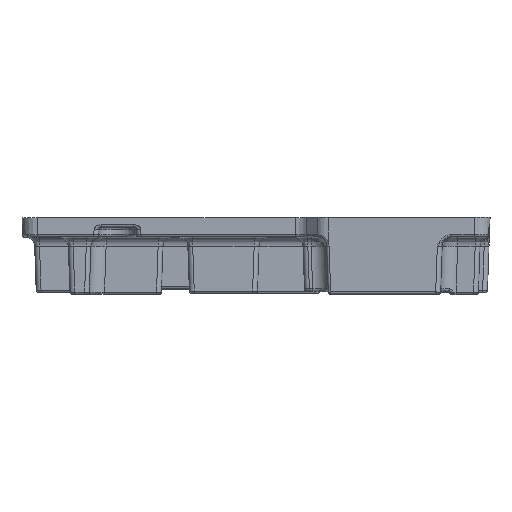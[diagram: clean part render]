
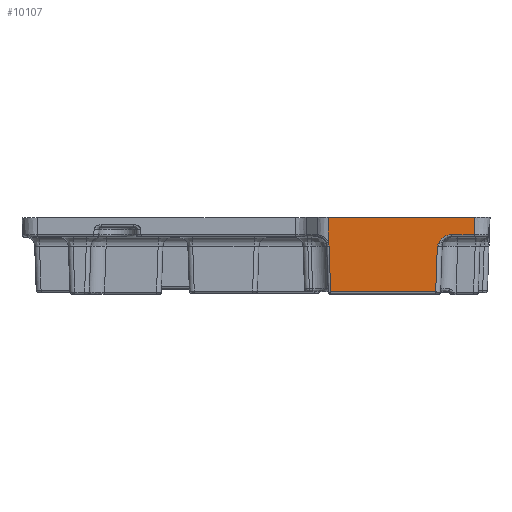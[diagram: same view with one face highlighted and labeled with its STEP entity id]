
A CAD part, top view. The second image highlights one B-rep face of the part: STEP entity #10107.
In plain terms, the highlighted planar face has unit normal (0, -0.035, 0.999).
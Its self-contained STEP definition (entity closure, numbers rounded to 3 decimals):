
#96=DIRECTION('',(1.,0.,0.));
#97=VECTOR('',#96,30.147);
#98=CARTESIAN_POINT('',(-30.146,4.,79.095));
#99=LINE('',#98,#97);
#1874=CARTESIAN_POINT('',(-4.731,0.483,
78.972));
#1875=CARTESIAN_POINT('',(-4.923,0.483,
78.972));
#1876=CARTESIAN_POINT('',(-5.282,0.44,
78.97));
#1877=CARTESIAN_POINT('',(-5.741,0.295,
78.965));
#1878=CARTESIAN_POINT('',(-6.125,0.098,
78.958));
#1879=CARTESIAN_POINT('',(-6.44,-0.125,
78.95));
#1880=CARTESIAN_POINT('',(-6.697,-0.359,
78.942));
#1881=CARTESIAN_POINT('',(-6.905,-0.591,
78.934));
#1882=CARTESIAN_POINT('',(-7.076,-0.817,
78.926));
#1883=CARTESIAN_POINT('',(-7.217,-1.032,
78.919));
#1884=CARTESIAN_POINT('',(-7.333,-1.232,
78.912));
#1885=CARTESIAN_POINT('',(-7.431,-1.418,
78.905));
#1886=CARTESIAN_POINT('',(-7.513,-1.585,
78.899));
#1887=CARTESIAN_POINT('',(-7.589,-1.747,
78.894));
#1888=CARTESIAN_POINT('',(-7.644,-1.868,
78.89));
#1889=CARTESIAN_POINT('',(-7.671,-1.93,
78.887));
#1891=DIRECTION('',(0.035,0.999,0.035));
#1892=VECTOR('',#1891,9.449);
#1893=CARTESIAN_POINT('',(-8.001,-11.367,
78.558));
#1894=LINE('',#1893,#1892);
#1895=DIRECTION('',(-1.,0.,0.));
#1896=VECTOR('',#1895,21.662);
#1897=CARTESIAN_POINT('',(-8.001,-11.367,
78.558));
#1898=LINE('',#1897,#1896);
#1899=DIRECTION('',(-0.035,0.999,0.035));
#1900=VECTOR('',#1899,9.449);
#1901=CARTESIAN_POINT('',(-29.663,-11.367,
78.558));
#1902=LINE('',#1901,#1900);
#1903=CARTESIAN_POINT('',(-29.993,-1.93,
78.887));
#1904=CARTESIAN_POINT('',(-29.996,-1.844,
78.89));
#1905=CARTESIAN_POINT('',(-30.011,-1.671,
78.896));
#1906=CARTESIAN_POINT('',(-30.058,-1.425,
78.905));
#1907=CARTESIAN_POINT('',(-30.112,-1.243,
78.911));
#1908=CARTESIAN_POINT('',(-30.146,-1.15,
78.915));
#1910=DIRECTION('',(0.,-0.999,-0.035));
#1911=VECTOR('',#1910,5.153);
#1912=CARTESIAN_POINT('',(-30.146,4.,79.095));
#1913=LINE('',#1912,#1911);
#1914=DIRECTION('',(0.,-0.999,-0.035));
#1915=VECTOR('',#1914,3.52);
#1916=CARTESIAN_POINT('',(0.,4.,79.095));
#1917=LINE('',#1916,#1915);
#1918=DIRECTION('',(-1.,0.,0.));
#1919=VECTOR('',#1918,4.731);
#1920=CARTESIAN_POINT('',(0.,0.483,
78.972));
#1921=LINE('',#1920,#1919);
#1942=CARTESIAN_POINT('',(-8.001,-11.367,
78.558));
#5813=CARTESIAN_POINT('',(-30.146,-1.15,
78.915));
#6493=CARTESIAN_POINT('',(0.,4.,79.095));
#6495=VERTEX_POINT('',#6493);
#6498=CARTESIAN_POINT('',(-30.146,4.,79.095));
#6500=VERTEX_POINT('',#6498);
#6752=VERTEX_POINT('',#1942);
#7072=VERTEX_POINT('',#1874);
#7073=VERTEX_POINT('',#1889);
#7077=CARTESIAN_POINT('',(0.,0.483,
78.972));
#7078=VERTEX_POINT('',#7077);
#7212=VERTEX_POINT('',#5813);
#7214=VERTEX_POINT('',#1903);
#7217=CARTESIAN_POINT('',(-29.663,-11.367,
78.558));
#7218=VERTEX_POINT('',#7217);
#10085=CARTESIAN_POINT('',(-34.157,4.,79.095));
#10086=DIRECTION('',(0.,-0.035,0.999));
#10087=DIRECTION('',(-1.,0.,0.));
#10088=AXIS2_PLACEMENT_3D('',#10085,#10086,#10087);
#10089=PLANE('',#10088);
#10090=ORIENTED_EDGE('',*,*,#10077,.T.);
#10092=ORIENTED_EDGE('',*,*,#10091,.F.);
#10094=ORIENTED_EDGE('',*,*,#10093,.T.);
#10096=ORIENTED_EDGE('',*,*,#10095,.T.);
#10098=ORIENTED_EDGE('',*,*,#10097,.T.);
#10100=ORIENTED_EDGE('',*,*,#10099,.F.);
#10101=ORIENTED_EDGE('',*,*,#7451,.T.);
#10103=ORIENTED_EDGE('',*,*,#10102,.T.);
#10104=ORIENTED_EDGE('',*,*,#9997,.T.);
#10105=EDGE_LOOP('',(#10090,#10092,#10094,#10096,#10098,#10100,#10101,#10103,
#10104));
#10106=FACE_OUTER_BOUND('',#10105,.F.);
#1890=B_SPLINE_CURVE_WITH_KNOTS('',3,(#1874,#1875,#1876,#1877,#1878,#1879,#1880,
#1881,#1882,#1883,#1884,#1885,#1886,#1887,#1888,#1889),.UNSPECIFIED.,.F.,.F.,(4,
1,1,1,1,1,1,1,1,1,1,1,1,4),(0.,0.077,0.154,
0.231,0.308,0.385,0.462,
0.538,0.615,0.692,0.769,
0.846,0.923,1.),.UNSPECIFIED.);
#1909=B_SPLINE_CURVE_WITH_KNOTS('',3,(#1903,#1904,#1905,#1906,#1907,#1908),
.UNSPECIFIED.,.F.,.F.,(4,1,1,4),(0.,0.333,0.667,1.),
.UNSPECIFIED.);
#7451=EDGE_CURVE('',#6500,#6495,#99,.T.);
#9997=EDGE_CURVE('',#7078,#7072,#1921,.T.);
#10077=EDGE_CURVE('',#7072,#7073,#1890,.T.);
#10091=EDGE_CURVE('',#6752,#7073,#1894,.T.);
#10093=EDGE_CURVE('',#6752,#7218,#1898,.T.);
#10095=EDGE_CURVE('',#7218,#7214,#1902,.T.);
#10097=EDGE_CURVE('',#7214,#7212,#1909,.T.);
#10099=EDGE_CURVE('',#6500,#7212,#1913,.T.);
#10102=EDGE_CURVE('',#6495,#7078,#1917,.T.);
#10107=ADVANCED_FACE('',(#10106),#10089,.T.);
